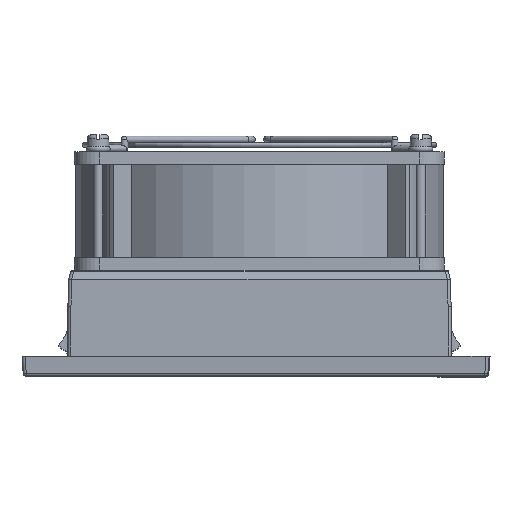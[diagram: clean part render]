
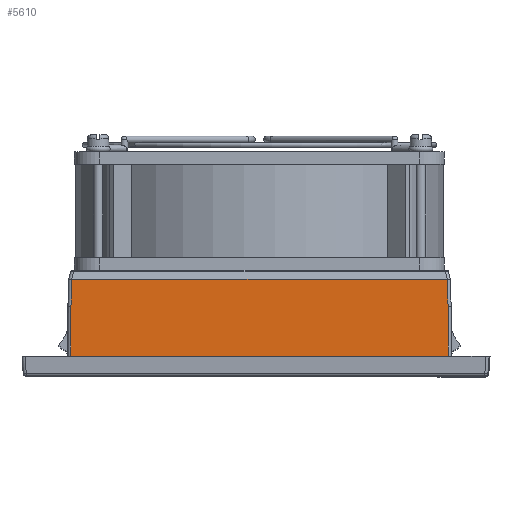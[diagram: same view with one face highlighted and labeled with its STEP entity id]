
A CAD part, front view. The second image highlights one B-rep face of the part: STEP entity #5610.
In plain terms, the highlighted planar face has unit normal (0, -1, 0).
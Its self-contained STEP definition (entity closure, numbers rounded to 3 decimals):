
#4618=PLANE('',#51855);
#5610=ADVANCED_FACE('',(#9336),#4618,.T.);
#9336=FACE_OUTER_BOUND('',#12436,.T.);
#12436=EDGE_LOOP('',(#22477,#22478,#22479,#22480,#22481,#22482));
#22477=ORIENTED_EDGE('',*,*,#39674,.T.);
#22478=ORIENTED_EDGE('',*,*,#40842,.T.);
#22479=ORIENTED_EDGE('',*,*,#40843,.T.);
#22480=ORIENTED_EDGE('',*,*,#40798,.F.);
#22481=ORIENTED_EDGE('',*,*,#40844,.T.);
#22482=ORIENTED_EDGE('',*,*,#40845,.T.);
#34720=VERTEX_POINT('',#78034);
#34721=VERTEX_POINT('',#78036);
#35688=VERTEX_POINT('',#81101);
#35689=VERTEX_POINT('',#81102);
#35711=VERTEX_POINT('',#81190);
#35712=VERTEX_POINT('',#81193);
#39674=EDGE_CURVE('',#34721,#34720,#46065,.T.);
#40798=EDGE_CURVE('',#35688,#35689,#46416,.T.);
#40842=EDGE_CURVE('',#34720,#35711,#46445,.T.);
#40843=EDGE_CURVE('',#35711,#35689,#46446,.T.);
#40844=EDGE_CURVE('',#35688,#35712,#46447,.T.);
#40845=EDGE_CURVE('',#35712,#34721,#46448,.T.);
#46065=LINE('',#78035,#48294);
#46416=LINE('',#81100,#48645);
#46445=LINE('',#81189,#48674);
#46446=LINE('',#81191,#48675);
#46447=LINE('',#81192,#48676);
#46448=LINE('',#81194,#48677);
#48294=VECTOR('',#58648,1.);
#48645=VECTOR('',#60649,1.);
#48674=VECTOR('',#60744,1.);
#48675=VECTOR('',#60745,1.);
#48676=VECTOR('',#60746,1.);
#48677=VECTOR('',#60747,1.);
#51855=AXIS2_PLACEMENT_3D('',#81195,#60748,#60749);
#58648=DIRECTION('',(1.,0.,0.));
#60649=DIRECTION('',(1.,0.,0.));
#60744=DIRECTION('',(0.,0.,1.));
#60745=DIRECTION('',(-0.026,0.,1.));
#60746=DIRECTION('',(-0.026,0.,-1.));
#60747=DIRECTION('',(0.,0.,-1.));
#60748=DIRECTION('',(0.,-1.,0.));
#60749=DIRECTION('',(0.,0.,1.));
#78034=CARTESIAN_POINT('',(-351.064,-128.137,24.));
#78035=CARTESIAN_POINT('',(-460.435,-128.137,24.));
#78036=CARTESIAN_POINT('',(-473.785,-128.137,24.));
#81100=CARTESIAN_POINT('',(-396.423,-128.137,48.998));
#81101=CARTESIAN_POINT('',(-473.556,-128.137,48.998));
#81102=CARTESIAN_POINT('',(-351.292,-128.137,48.998));
#81189=CARTESIAN_POINT('',(-351.064,-128.137,19.9));
#81190=CARTESIAN_POINT('',(-351.064,-128.137,40.257));
#81191=CARTESIAN_POINT('',(-351.263,-128.137,47.877));
#81192=CARTESIAN_POINT('',(-473.786,-128.137,40.244));
#81193=CARTESIAN_POINT('',(-473.785,-128.137,40.257));
#81194=CARTESIAN_POINT('',(-473.785,-128.137,24.));
#81195=CARTESIAN_POINT('',(-460.435,-128.137,19.9));
